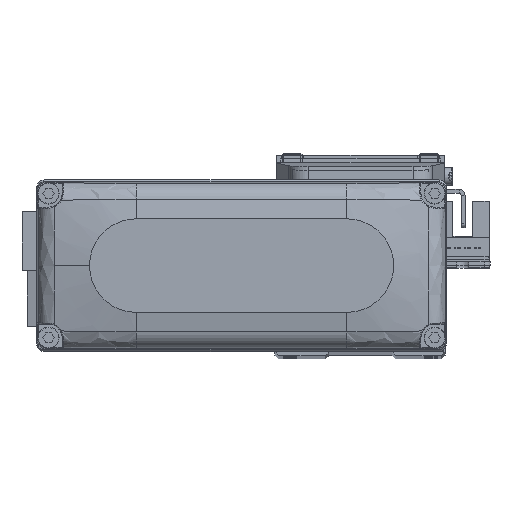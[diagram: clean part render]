
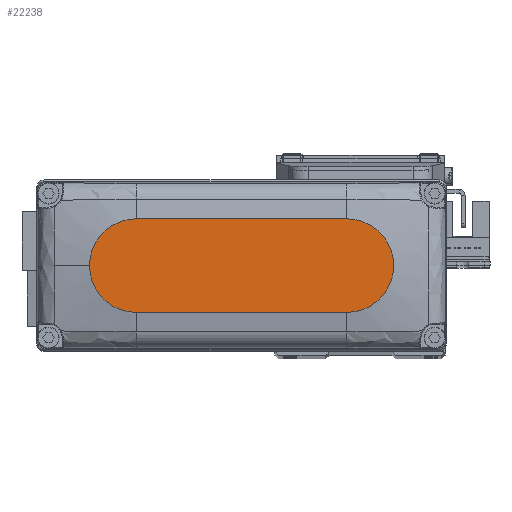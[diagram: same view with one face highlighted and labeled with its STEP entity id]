
A CAD part, top view. The second image highlights one B-rep face of the part: STEP entity #22238.
In plain terms, the highlighted planar face has unit normal (0, 0, 1).
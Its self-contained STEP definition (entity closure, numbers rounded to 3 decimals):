
#1755 = LINE ( 'NONE', #14009, #24434 ) ;
#2683 = AXIS2_PLACEMENT_3D ( 'NONE', #6847, #19129, #31379 ) ;
#2914 = AXIS2_PLACEMENT_3D ( 'NONE', #32000, #4471, #16726 ) ;
#3186 = VERTEX_POINT ( 'NONE', #25768 ) ;
#3216 = EDGE_CURVE ( 'NONE', #14377, #15859, #27316, .T. ) ;
#3939 = DIRECTION ( 'NONE',  ( 0., 0., 1. ) ) ;
#4231 = CARTESIAN_POINT ( 'NONE',  ( 27., 12., 25. ) ) ;
#4468 = DIRECTION ( 'NONE',  ( 0., 0., 1. ) ) ;
#4471 = DIRECTION ( 'NONE',  ( 0., 0., 1. ) ) ;
#6847 = CARTESIAN_POINT ( 'NONE',  ( 0., 0., 25. ) ) ;
#10007 = AXIS2_PLACEMENT_3D ( 'NONE', #31997, #4468, #16723 ) ;
#10065 = AXIS2_PLACEMENT_3D ( 'NONE', #31467, #3939, #16187 ) ;
#11636 = CARTESIAN_POINT ( 'NONE',  ( -27., 12., 25. ) ) ;
#11800 = VERTEX_POINT ( 'NONE', #21205 ) ;
#13143 = CARTESIAN_POINT ( 'NONE',  ( -27., 12., 25. ) ) ;
#13360 = ORIENTED_EDGE ( 'NONE', *, *, #21048, .T. ) ;
#14009 = CARTESIAN_POINT ( 'NONE',  ( -27., -12., 25. ) ) ;
#14377 = VERTEX_POINT ( 'NONE', #13143 ) ;
#15317 = CARTESIAN_POINT ( 'NONE',  ( -27., -12., 25. ) ) ;
#15800 = EDGE_LOOP ( 'NONE', ( #38884, #22930, #13360, #20423, #39226 ) ) ;
#15859 = VERTEX_POINT ( 'NONE', #15317 ) ;
#16187 = DIRECTION ( 'NONE',  ( 1., 0., 0. ) ) ;
#16723 = DIRECTION ( 'NONE',  ( 1., 0., 0. ) ) ;
#16726 = DIRECTION ( 'NONE',  ( 1., 0., 0. ) ) ;
#19129 = DIRECTION ( 'NONE',  ( 0., 0., 1. ) ) ;
#20246 = CIRCLE ( 'NONE', #2914, 12. ) ;
#20423 = ORIENTED_EDGE ( 'NONE', *, *, #38081, .T. ) ;
#20703 = EDGE_CURVE ( 'NONE', #25892, #14377, #39166, .T. ) ;
#21048 = EDGE_CURVE ( 'NONE', #15859, #11800, #1755, .T. ) ;
#21205 = CARTESIAN_POINT ( 'NONE',  ( 27., -12., 25. ) ) ;
#22133 = FACE_OUTER_BOUND ( 'NONE', #15800, .T. ) ;
#22238 = ADVANCED_FACE ( 'NONE', ( #22133 ), #34372, .T. ) ;
#22930 = ORIENTED_EDGE ( 'NONE', *, *, #3216, .T. ) ;
#23897 = DIRECTION ( 'NONE',  ( -1., 0., 0. ) ) ;
#24434 = VECTOR ( 'NONE', #26275, 1000. ) ;
#25768 = CARTESIAN_POINT ( 'NONE',  ( 39., 0., 25. ) ) ;
#25892 = VERTEX_POINT ( 'NONE', #4231 ) ;
#26275 = DIRECTION ( 'NONE',  ( 1., 0., 0. ) ) ;
#27316 = CIRCLE ( 'NONE', #10007, 12. ) ;
#27381 = CIRCLE ( 'NONE', #10065, 12. ) ;
#31379 = DIRECTION ( 'NONE',  ( 1., 0., 0. ) ) ;
#31467 = CARTESIAN_POINT ( 'NONE',  ( 27., 0., 25. ) ) ;
#31997 = CARTESIAN_POINT ( 'NONE',  ( -27., 0., 25. ) ) ;
#32000 = CARTESIAN_POINT ( 'NONE',  ( 27., 0., 25. ) ) ;
#32740 = VECTOR ( 'NONE', #23897, 1000. ) ;
#34372 = PLANE ( 'NONE',  #2683 ) ;
#38081 = EDGE_CURVE ( 'NONE', #11800, #3186, #20246, .T. ) ;
#38884 = ORIENTED_EDGE ( 'NONE', *, *, #20703, .T. ) ;
#39166 = LINE ( 'NONE', #11636, #32740 ) ;
#39226 = ORIENTED_EDGE ( 'NONE', *, *, #39402, .T. ) ;
#39402 = EDGE_CURVE ( 'NONE', #3186, #25892, #27381, .T. ) ;
